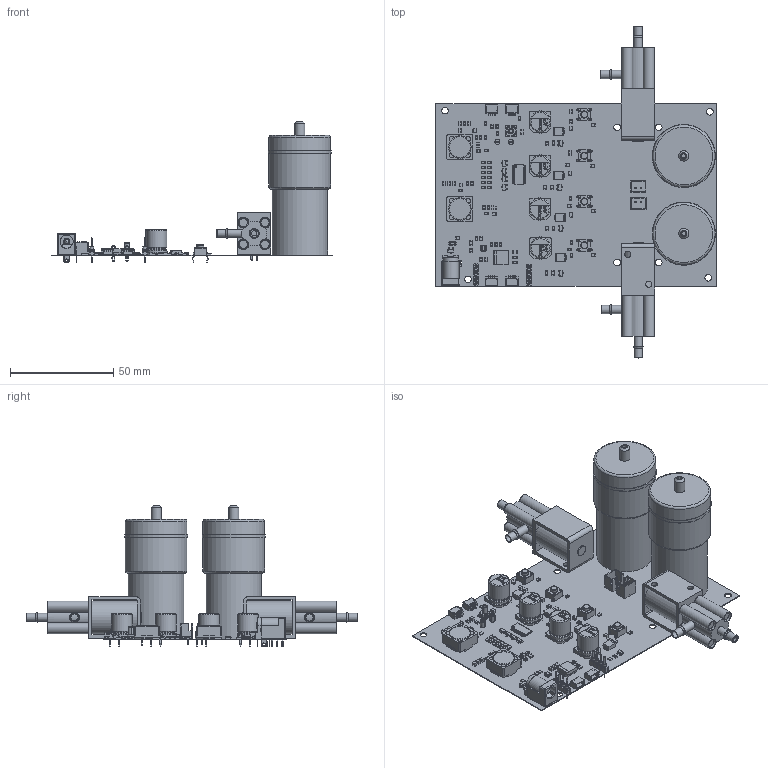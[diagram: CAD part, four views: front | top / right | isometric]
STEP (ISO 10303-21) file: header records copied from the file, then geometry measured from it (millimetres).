
FILE_DESCRIPTION(('Open CASCADE Model'),'2;1');
FILE_NAME('Open CASCADE Shape Model','2026-11-23T23:34:25',('Author'),( 'Open CASCADE'),'Open CASCADE STEP processor 7.5','Open CASCADE 7.5' ,'Unknown');
FILE_SCHEMA(('AUTOMOTIVE_DESIGN { 1 0 10303 214 1 1 1 1 }'));
Length unit declared in the file: millimetre
Products named in the file (171): PCB; Board; Open CASCADE STEP translator 7.5 1.1.1; R4; 8333289504; R3; 8333287904; PUMP_2; Pump motor; PUMP_1; J9; 2 Pin RMC Header; pins; Open CASCADE STEP translator 7.5 1.6.1.2; J8; C31; Download_STP_875075xx10xx+%28rev1%29; Base_Φ10Capacitor; capicitor_10x12.4x4.5; J7; TS-104-T-A; TS-104-G-A_socket; -101-G-A_pins; S1; MPRLS0025PA00001A; D17; 8333289264; LED6; 8333286784; LED5; LED4; SW4; TS6-THT_H-5.0; R36; 8333286064; R35; R30; R29; R15; R14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
Assembly tree (264 placements, depth 4):
  PCB
    Board
      Open CASCADE STEP translator 7.5 1.1.1
    R4
      8333289504
    R3
      8333287904
    PUMP_2
      Pump motor
    PUMP_1
      Pump motor
    J9
      2 Pin RMC Header
        pins
        Open CASCADE STEP translator 7.5 1.6.1.2
    J8
      2 Pin RMC Header
        pins
        Open CASCADE STEP translator 7.5 1.6.1.2
    C31
      Download_STP_875075xx10xx+%28rev1%29
        Base_Φ10Capacitor
        capicitor_10x12.4x4.5
    J7
      TS-104-T-A
        TS-104-G-A_socket
        -101-G-A_pins  x4
    S1
      MPRLS0025PA00001A
    D17
      8333289264
    LED6
      8333286784
    LED5
      8333286784
    LED4
      8333286784
    SW4
      TS6-THT_H-5.0
    R36
      8333286064
    R35
      8333289504
    R30
      8333286064
    R29
      8333286064
    R15
      8333286064
    R14
      8333286064
    R13
      8333286064
    R11
      8333288624
    R10
      8333288624
    R9
      8333288624
    R41
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Bounding box: 136.04 x 160.98 x 68.84 mm (x, y, z)
Volume: 106313 mm3; surface area: 65491.3 mm2
Topology: 513 solids, 513 shells, 8181 faces, 20045 edges, 12901 vertices
Faces by surface type: plane 6155, cylinder 1607, sphere 220, torus 70, extrusion 64, cone 28, revolution 21, bspline 16
Full cylindrical faces by diameter (mm): 0.065 x2, 0.457 x8, 0.635 x8, 0.636 x8, 0.8 x32, 1 x56, 1.02 x2, 1.05 x4, 1.2 x8, 1.25 x4, 1.321 x24, 1.45 x4, 1.5 x3, 1.778 x16, 1.8 x1, 2 x7, 2.45 x4, 2.5 x2, 2.65 x4, 3 x4, 3.2 x4, 3.5 x6, 3.65 x4, 3.85 x4, 4 x16, 4.8 x8, 5 x4, 6.4 x1, 7 x4, 8.9 x4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
Entity records: 103308 total; most frequent: CARTESIAN_POINT 18107, DIRECTION 15667, ORIENTED_EDGE 15556, EDGE_CURVE 7778, VECTOR 6100, LINE 6084, VERTEX_POINT 5086, AXIS2_PLACEMENT_3D 4780
